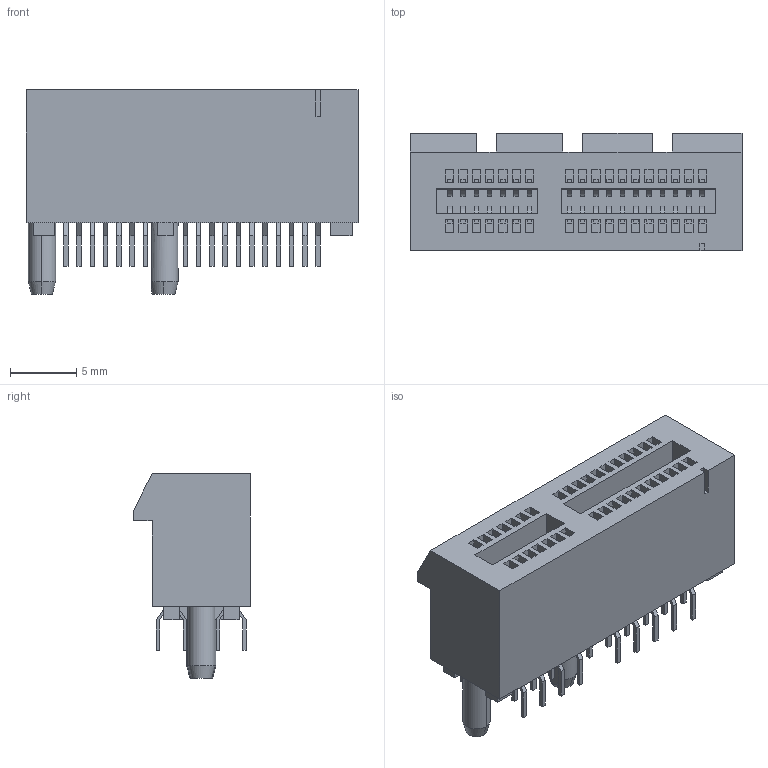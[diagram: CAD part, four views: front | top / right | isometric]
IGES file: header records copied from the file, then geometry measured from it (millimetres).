
Start section:  PTC IGES file: c-9-1734774-0-f-3d.igs
Global section: file name: c-9-1734774-0-f-3d.igs; native system: Creo Parametric by PTC Inc.; preprocessor: 2015200; author: workeradm; organization: Unknown; units: millimetre
Bounding box: 25 x 8.8 x 15.4 mm (x, y, z)
Surface area: 1886 mm2 (no closed solid volume)
Topology: 0 solids, 0 shells, 832 faces, 4268 edges, 4268 vertices
Faces by surface type: bspline 753, revolution 79
